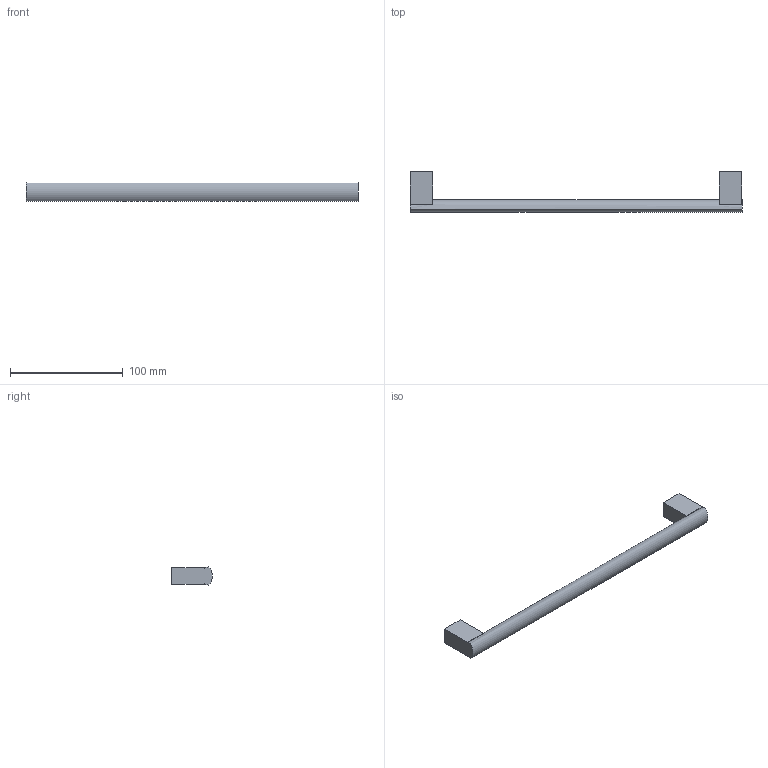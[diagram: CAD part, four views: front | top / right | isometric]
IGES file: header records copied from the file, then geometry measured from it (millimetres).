
Start section: Data from Parasolid IGES Translator 20.0.26, Copyright(c) 2006 Siemens P LM Software. All Rights Reserved.
Global section: file name: 115357.igs; native system: By Siemens PLM Incorporated; preprocessor: XPlus GENERIC/IGES 20.0.26; author: Noname; organization: Noname; date: 20230220.161407; units: millimetre
Bounding box: 294 x 35.96 x 16 mm (x, y, z)
Surface area: 16868.5 mm2 (no closed solid volume)
Topology: 0 solids, 0 shells, 22 faces, 102 edges, 100 vertices
Faces by surface type: extrusion 17, revolution 5
